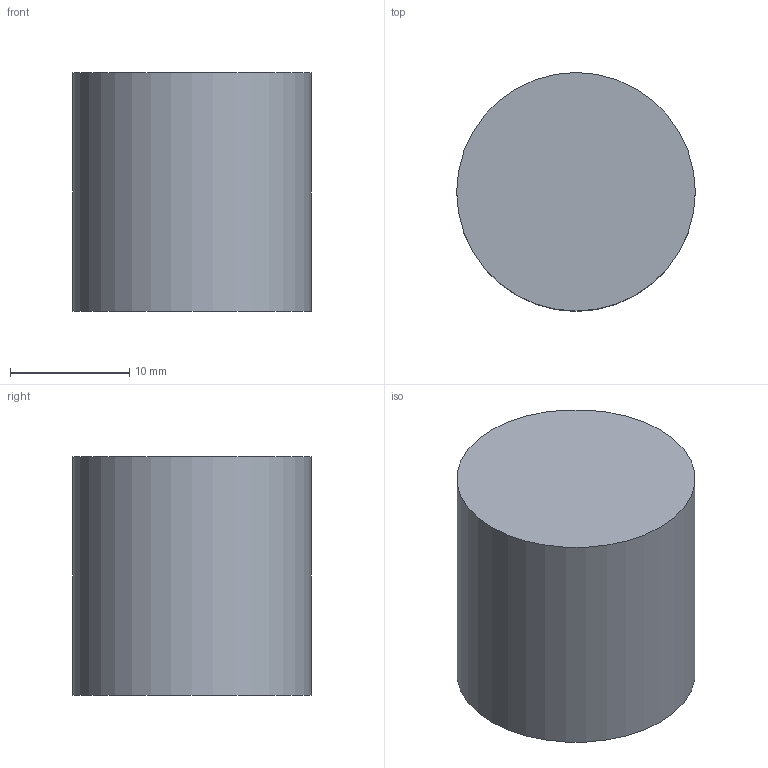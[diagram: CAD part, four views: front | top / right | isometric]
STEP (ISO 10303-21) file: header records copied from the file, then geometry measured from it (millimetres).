
FILE_DESCRIPTION(('BRL-CAD AP214 shared rational-periodic edge subdivision fixture'),'2;1');
FILE_NAME('ap214_periodic_edge_propagation.stp','2026-07-22T00:00:00',('BRL-CAD'),('BRL-CAD'),'','','');
FILE_SCHEMA(('AUTOMOTIVE_DESIGN { 1 0 10303 214 3 1 1 1 }'));
Length unit declared in the file: millimetre
Products named in the file (1): periodic_edge_propagation
Bounding box: 20 x 20 x 20 mm (x, y, z)
Volume: 6282.8 mm3; surface area: 1884.9 mm2
Topology: 1 solids, 1 shells, 3 faces, 4 edges, 3 vertices
Faces by surface type: plane 2, bspline 1
Entity records: 66 total; most frequent: CARTESIAN_POINT 22, DIRECTION 4, AXIS2_PLACEMENT_3D 4, ORIENTED_EDGE 4, EDGE_LOOP 4, FACE_OUTER_BOUND 3, ADVANCED_FACE 3, VERTEX_POINT 2
